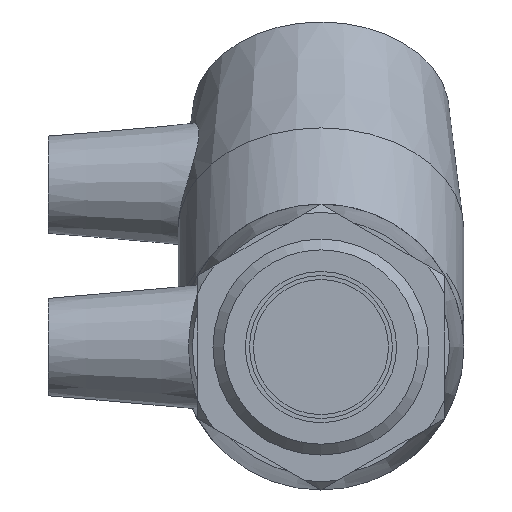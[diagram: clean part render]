
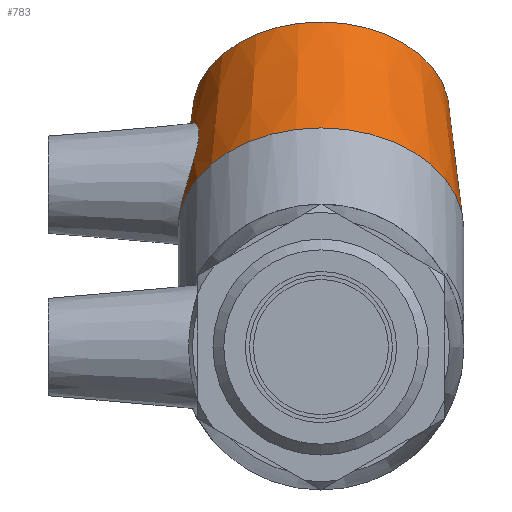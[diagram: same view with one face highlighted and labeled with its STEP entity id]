
A CAD part, left-side view. The second image highlights one B-rep face of the part: STEP entity #783.
In plain terms, the highlighted conical face has half-angle 4.98 degrees and reference radius 20.9 mm.
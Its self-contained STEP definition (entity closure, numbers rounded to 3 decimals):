
#15=B_SPLINE_CURVE_WITH_KNOTS('',3,(#1394,#1395,#1396,#1397,#1398,#1399,
#1400,#1401,#1402,#1403,#1404,#1405,#1406,#1407,#1408,#1409,#1410,#1411,
#1412,#1413,#1414,#1415,#1416,#1417,#1418,#1419,#1420,#1421,#1422,#1423,
#1424,#1425,#1426,#1427),.UNSPECIFIED.,.T.,.F.,(4,2,2,2,2,2,2,2,2,2,2,2,
2,2,2,2,4),(0.,0.348,0.695,1.046,1.397,
1.747,2.098,2.446,2.793,3.172,
3.552,3.92,4.288,4.657,5.025,
5.404,5.783),.UNSPECIFIED.);
#141=FACE_BOUND('',#285,.T.);
#142=FACE_BOUND('',#286,.T.);
#202=FACE_OUTER_BOUND('',#284,.T.);
#284=EDGE_LOOP('',(#689));
#285=EDGE_LOOP('',(#690));
#286=EDGE_LOOP('',(#691));
#347=CIRCLE('',#874,22.);
#351=CIRCLE('',#885,19.8);
#420=VERTEX_POINT('',#1389);
#421=VERTEX_POINT('',#1393);
#425=VERTEX_POINT('',#1439);
#513=EDGE_CURVE('',#420,#420,#347,.T.);
#515=EDGE_CURVE('',#421,#421,#15,.T.);
#519=EDGE_CURVE('',#425,#425,#351,.T.);
#689=ORIENTED_EDGE('',*,*,#513,.F.);
#690=ORIENTED_EDGE('',*,*,#515,.T.);
#691=ORIENTED_EDGE('',*,*,#519,.T.);
#733=CONICAL_SURFACE('',#886,20.9,4.98);
#783=ADVANCED_FACE('',(#202,#141,#142),#733,.T.);
#874=AXIS2_PLACEMENT_3D('',#1390,#1076,#1077);
#885=AXIS2_PLACEMENT_3D('',#1440,#1098,#1099);
#886=AXIS2_PLACEMENT_3D('',#1441,#1100,#1101);
#1076=DIRECTION('center_axis',(-0.707,0.,
-0.707));
#1077=DIRECTION('ref_axis',(-0.707,0.,0.707));
#1098=DIRECTION('center_axis',(-0.707,0.,
-0.707));
#1099=DIRECTION('ref_axis',(-0.707,0.,0.707));
#1100=DIRECTION('center_axis',(-0.707,0.,
-0.707));
#1101=DIRECTION('ref_axis',(0.,1.,0.));
#1389=CARTESIAN_POINT('',(18.182,22.,18.182));
#1390=CARTESIAN_POINT('Origin',(18.182,0.,
18.182));
#1393=CARTESIAN_POINT('',(32.034,18.858,18.578));
#1394=CARTESIAN_POINT('Ctrl Pts',(32.034,18.858,18.578));
#1395=CARTESIAN_POINT('Ctrl Pts',(32.818,18.768,19.427));
#1396=CARTESIAN_POINT('Ctrl Pts',(33.481,18.797,20.488));
#1397=CARTESIAN_POINT('Ctrl Pts',(34.321,19.054,22.777));
#1398=CARTESIAN_POINT('Ctrl Pts',(34.501,19.274,24.006));
#1399=CARTESIAN_POINT('Ctrl Pts',(34.428,19.695,26.294));
#1400=CARTESIAN_POINT('Ctrl Pts',(34.168,19.925,27.516));
#1401=CARTESIAN_POINT('Ctrl Pts',(33.187,20.251,29.776));
#1402=CARTESIAN_POINT('Ctrl Pts',(32.466,20.342,30.813));
#1403=CARTESIAN_POINT('Ctrl Pts',(30.813,20.342,32.466));
#1404=CARTESIAN_POINT('Ctrl Pts',(29.776,20.251,33.187));
#1405=CARTESIAN_POINT('Ctrl Pts',(27.516,19.925,34.168));
#1406=CARTESIAN_POINT('Ctrl Pts',(26.294,19.695,34.428));
#1407=CARTESIAN_POINT('Ctrl Pts',(24.006,19.274,34.501));
#1408=CARTESIAN_POINT('Ctrl Pts',(22.777,19.054,34.321));
#1409=CARTESIAN_POINT('Ctrl Pts',(20.488,18.797,33.481));
#1410=CARTESIAN_POINT('Ctrl Pts',(19.427,18.768,32.818));
#1411=CARTESIAN_POINT('Ctrl Pts',(17.653,18.956,31.179));
#1412=CARTESIAN_POINT('Ctrl Pts',(16.88,19.204,30.089));
#1413=CARTESIAN_POINT('Ctrl Pts',(15.867,19.87,27.712));
#1414=CARTESIAN_POINT('Ctrl Pts',(15.626,20.28,26.423));
#1415=CARTESIAN_POINT('Ctrl Pts',(15.634,20.991,24.035));
#1416=CARTESIAN_POINT('Ctrl Pts',(15.87,21.342,22.769));
#1417=CARTESIAN_POINT('Ctrl Pts',(16.845,21.833,20.412));
#1418=CARTESIAN_POINT('Ctrl Pts',(17.585,21.967,19.322));
#1419=CARTESIAN_POINT('Ctrl Pts',(19.322,21.967,17.585));
#1420=CARTESIAN_POINT('Ctrl Pts',(20.412,21.833,16.845));
#1421=CARTESIAN_POINT('Ctrl Pts',(22.769,21.342,15.87));
#1422=CARTESIAN_POINT('Ctrl Pts',(24.035,20.991,15.634));
#1423=CARTESIAN_POINT('Ctrl Pts',(26.423,20.28,15.626));
#1424=CARTESIAN_POINT('Ctrl Pts',(27.712,19.87,15.867));
#1425=CARTESIAN_POINT('Ctrl Pts',(30.089,19.204,16.88));
#1426=CARTESIAN_POINT('Ctrl Pts',(31.179,18.956,17.653));
#1427=CARTESIAN_POINT('Ctrl Pts',(32.034,18.858,18.578));
#1439=CARTESIAN_POINT('',(36.036,19.8,36.036));
#1440=CARTESIAN_POINT('Origin',(36.036,0.,36.036));
#1441=CARTESIAN_POINT('Origin',(27.109,0.,
27.109));
